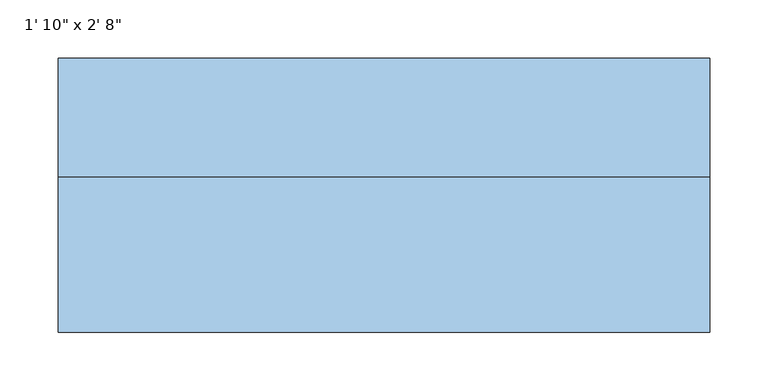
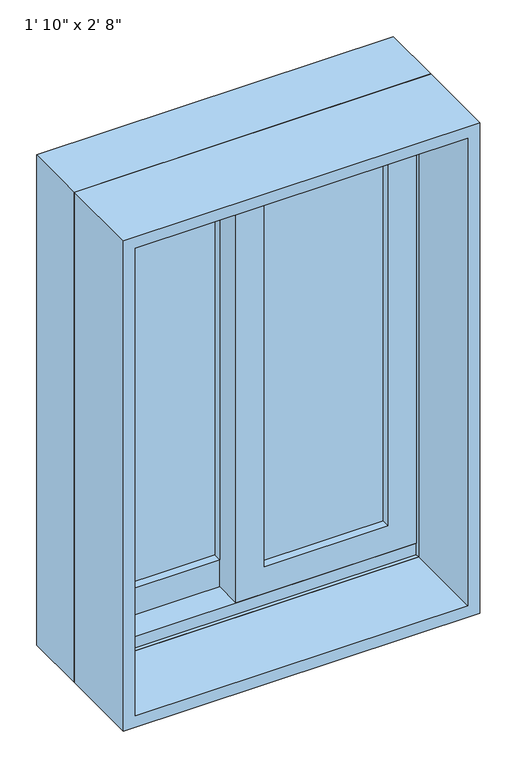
"""IFC4 building model written with IfcOpenShell, lengths in millimetres: window geometry."""

from ifc_helpers import new_model, si_unit, frame, origin, place, context, project, spatial, polyline, outline, extrude, faceted_brep, source, transform, mapped, element, save


def window_01d23109(model_context):
    return source(origin(), model_context, "Body", "SolidModel", [
        extrude(outline(polyline([(933.45, -260.35), (933.45, 22.225), (1708.15, 22.225), (1708.15, -260.35), (933.45, -260.35)]), holes=[polyline([(1663.7, -22.225), (996.95, -22.225), (996.95, -215.9), (1663.7, -215.9), (1663.7, -22.225)])]), frame((0.0, 72.39, 0.0), z_axis=(0.0, 1.0, 0.0), x_axis=(0.0, 0.0, 1.0)), (0.0, 0.0, 1.0), 44.45),
        extrude(outline(polyline([(952.5, 260.35), (1708.15, 260.35), (1708.15, -22.225), (952.5, -22.225), (952.5, 260.35)]), holes=[polyline([(996.95, 22.225), (1663.7, 22.225), (1663.7, 215.9), (996.95, 215.9), (996.95, 22.225)])]), frame((0.0, 27.94, 0.0), z_axis=(0.0, 1.0, 0.0), x_axis=(0.0, 0.0, 1.0)), (0.0, 0.0, 1.0), 44.45),
        faceted_brep([(-279.4, 21.59, 914.4), (-279.4, 123.19, 914.4), (279.4, 123.19, 914.4), (279.4, 21.59, 914.4), (-238.4778905, 123.19, 1686.2778905), (-238.4778905, 116.84, 1686.2778905), (-238.4778905, 116.84, 933.45), (-238.4778905, 123.19, 933.45), (238.4778905, 116.84, 1686.2778905), (238.4778905, 116.84, 933.45), (260.35, 116.84, 933.45), (260.35, 116.84, 1708.15), (-260.35, 116.84, 1708.15), (-260.35, 116.84, 933.45), (-260.35, 21.59, 1708.15), (-260.35, 21.59, 933.45), (-260.35, 27.94, 933.45), (-260.35, 27.94, 952.5), (-260.35, 72.39, 952.5), (-260.35, 72.39, 933.45), (279.4, 21.59, 1727.2), (-279.4, 21.59, 1727.2), (260.35, 21.59, 1708.15), (260.35, 21.59, 933.45), (-279.4, 123.19, 1727.2), (279.4, 123.19, 1727.2), (238.4778905, 123.19, 933.45), (238.4778905, 123.19, 1686.2778905), (260.35, 72.39, 933.45), (260.35, 72.39, 952.5), (260.35, 27.94, 952.5), (260.35, 27.94, 933.45)], [[[0, 1, 2, 3]], [[4, 5, 6, 7]], [[5, 8, 9, 10, 11, 12, 13, 6]], [[12, 14, 15, 16, 17, 18, 19, 13]], [[0, 3, 20, 21], [22, 23, 15, 14]], [[24, 1, 0, 21]], [[2, 1, 24, 25], [4, 7, 26, 27]], [[5, 4, 27, 8]], [[12, 11, 22, 14]], [[21, 20, 25, 24]], [[8, 27, 26, 9]], [[22, 11, 10, 28, 29, 30, 31, 23]], [[20, 3, 2, 25]], [[26, 7, 6, 13, 19, 28, 10, 9]], [[28, 19, 18, 29]], [[29, 18, 17, 30]], [[30, 17, 16, 31]], [[15, 23, 31, 16]]]),
        extrude(outline(polyline([(1727.2, -279.4), (914.4, -279.4), (914.4, 279.4), (1727.2, 279.4), (1727.2, -279.4)]), holes=[polyline([(1708.15, 260.35), (933.45, 260.35), (933.45, -260.35), (1708.15, -260.35), (1708.15, 260.35)])]), frame((0.0, -111.76, 0.0), z_axis=(0.0, 1.0, 0.0), x_axis=(0.0, 0.0, 1.0)), (0.0, 0.0, 1.0), 133.35),
        extrude(outline(polyline([(215.9, 59.69), (215.9, 53.34), (22.225, 53.34), (22.225, 59.69), (215.9, 59.69)])), frame((0.0, 0.0, 996.95), z_axis=(0.0, 0.0, 1.0), x_axis=(1.0, 0.0, 0.0)), (0.0, 0.0, 1.0), 666.75),
        extrude(outline(polyline([(215.9, 46.99), (215.9, 40.64), (22.225, 40.64), (22.225, 46.99), (215.9, 46.99)])), frame((0.0, 0.0, 996.95), z_axis=(0.0, 0.0, 1.0), x_axis=(1.0, 0.0, 0.0)), (0.0, 0.0, 1.0), 666.75),
        extrude(outline(polyline([(-22.225, 104.14), (-22.225, 97.79), (-215.9, 97.79), (-215.9, 104.14), (-22.225, 104.14)])), frame((0.0, 0.0, 996.95), z_axis=(0.0, 0.0, 1.0), x_axis=(1.0, 0.0, 0.0)), (0.0, 0.0, 1.0), 666.75),
        extrude(outline(polyline([(-22.225, 91.44), (-22.225, 85.09), (-215.9, 85.09), (-215.9, 91.44), (-22.225, 91.44)])), frame((0.0, 0.0, 996.95), z_axis=(0.0, 0.0, 1.0), x_axis=(1.0, 0.0, 0.0)), (0.0, 0.0, 1.0), 666.75),
    ])


if __name__ == "__main__":
    model = new_model("IFC4")
    model_context = context("Model", 3, world=origin())
    ifc_project = project(units=[si_unit("LENGTHUNIT", "METRE", prefix="MILLI")], contexts=[model_context])
    site = spatial("IfcSite", under=ifc_project)
    building = spatial("IfcBuilding", under=site)
    placement = place(None, origin())
    window_shape = window_01d23109(model_context)
    element("IfcWindow", 1, ObjectType="Planitar-Sliding-Double : 1' 10\" x 2' 8\"", at=placement, inside=building, context=model_context, shape_type="MappedRepresentation", body=[
        mapped(window_shape, transform((0.0, 0.0, 0.0), x_axis=(1.0, 0.0, 0.0), y_axis=(0.0, 1.0, 0.0), z_axis=(0.0, 0.0, 1.0))),
    ])
    save(model, "model.ifc")
